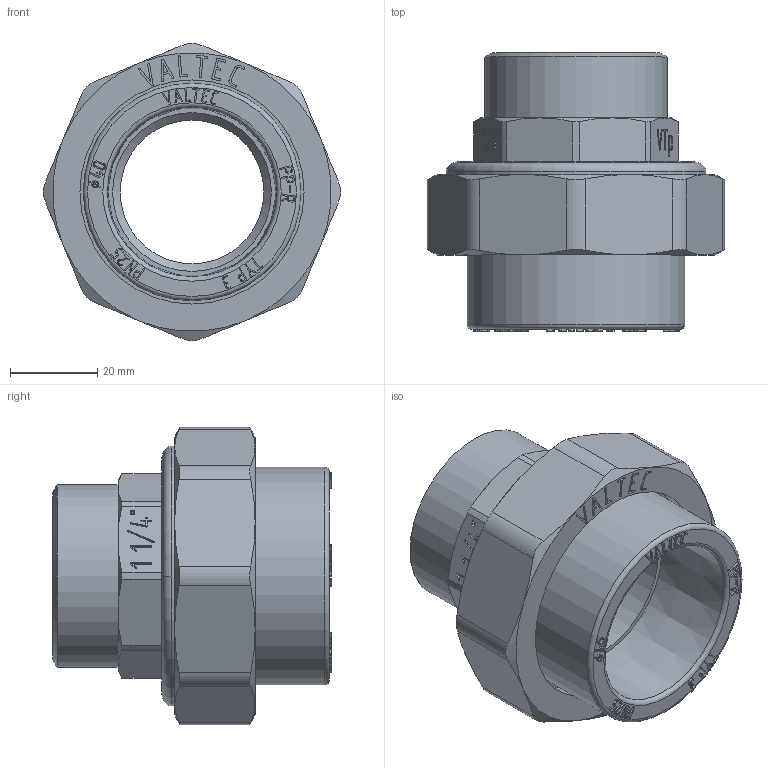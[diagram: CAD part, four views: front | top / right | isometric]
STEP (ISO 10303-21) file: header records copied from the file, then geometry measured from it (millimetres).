
FILE_DESCRIPTION(('STEP AP203'), '1');
FILE_NAME('VTp.761.0.04007', '', ('UNSPECIFIED'), ('UNSPECIFIED'), 'C3D Converter', 'C3D Toolkit', '');
FILE_SCHEMA(('CONFIG_CONTROL_DESIGN'));
Length unit declared in the file: millimetre
Products named in the file (1): ВР.302634.103.000 СБ
Bounding box: 68.28 x 64 x 68.28 mm (x, y, z)
Volume: 72025 mm3; surface area: 36707 mm2
Topology: 4 solids, 4 shells, 900 faces, 2478 edges, 1639 vertices
Faces by surface type: extrusion 481, plane 352, cone 31, cylinder 29, torus 7
Full cylindrical faces by diameter (mm): 33 x1, 36.5 x1, 39.2 x1, 41.91 x1, 42 x2, 50 x1, 51.5 x1, 54 x2, 56.5 x1, 57.4 x1, 59.6 x1
Entity records: 30147 total; most frequent: CARTESIAN_POINT 9420, ORIENTED_EDGE 4862, DIRECTION 2786, EDGE_CURVE 2431, VECTOR 1826, VERTEX_POINT 1628, B_SPLINE_CURVE_WITH_KNOTS 1496, LINE 1345
